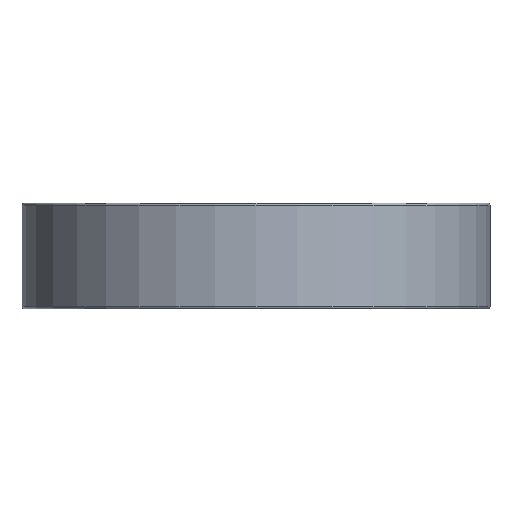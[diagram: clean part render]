
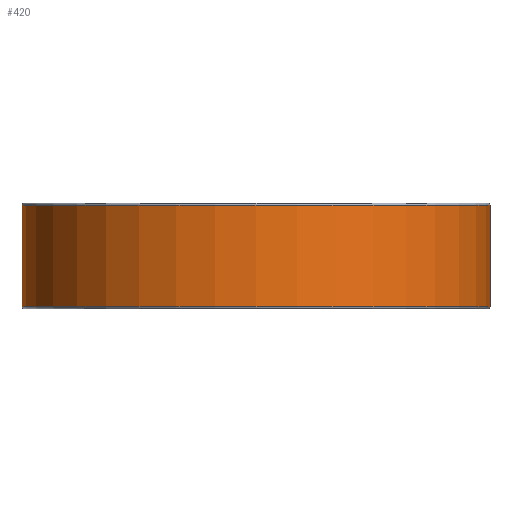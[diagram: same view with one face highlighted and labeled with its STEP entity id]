
A CAD part, front view. The second image highlights one B-rep face of the part: STEP entity #420.
In plain terms, the highlighted cylindrical face has radius 26.5 mm (diameter 53 mm), a full revolution.
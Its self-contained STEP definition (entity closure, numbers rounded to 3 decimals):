
#420=ADVANCED_FACE('',(#496,#497),#480,.T.);
#480=CYLINDRICAL_SURFACE('',#1119,26.5);
#496=FACE_BOUND('',#544,.T.);
#497=FACE_BOUND('',#545,.T.);
#544=EDGE_LOOP('',(#632));
#545=EDGE_LOOP('',(#633));
#632=ORIENTED_EDGE('',*,*,#948,.T.);
#633=ORIENTED_EDGE('',*,*,#949,.T.);
#864=VERTEX_POINT('',#1524);
#865=VERTEX_POINT('',#1526);
#948=EDGE_CURVE('',#864,#864,#1064,.T.);
#949=EDGE_CURVE('',#865,#865,#1065,.T.);
#1064=CIRCLE('',#1117,26.5);
#1065=CIRCLE('',#1118,26.5);
#1117=AXIS2_PLACEMENT_3D('',#1523,#1232,#1233);
#1118=AXIS2_PLACEMENT_3D('',#1525,#1234,#1235);
#1119=AXIS2_PLACEMENT_3D('',#1527,#1236,#1237);
#1232=DIRECTION('',(0.,0.,1.));
#1233=DIRECTION('',(1.,0.,0.));
#1234=DIRECTION('',(0.,0.,-1.));
#1235=DIRECTION('',(1.,0.,0.));
#1236=DIRECTION('',(0.,0.,-1.));
#1237=DIRECTION('',(-1.,0.,0.));
#1523=CARTESIAN_POINT('',(0.,0.,0.25));
#1524=CARTESIAN_POINT('',(26.5,0.,0.25));
#1525=CARTESIAN_POINT('',(0.,0.,11.75));
#1526=CARTESIAN_POINT('',(26.5,0.,11.75));
#1527=CARTESIAN_POINT('',(0.,0.,12.));
